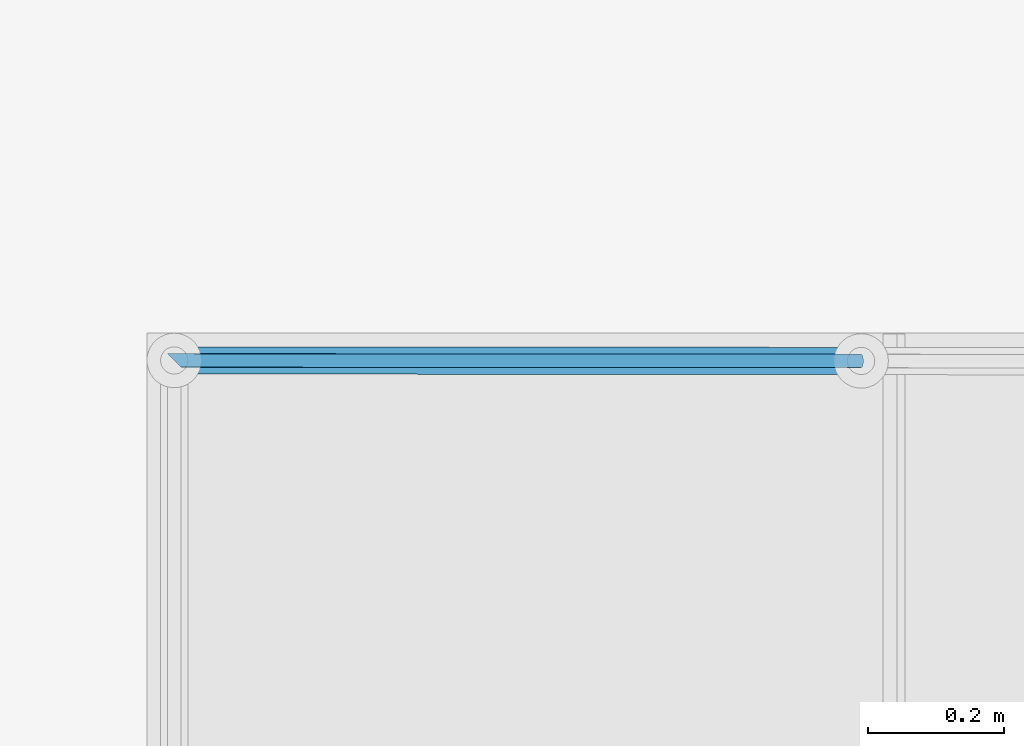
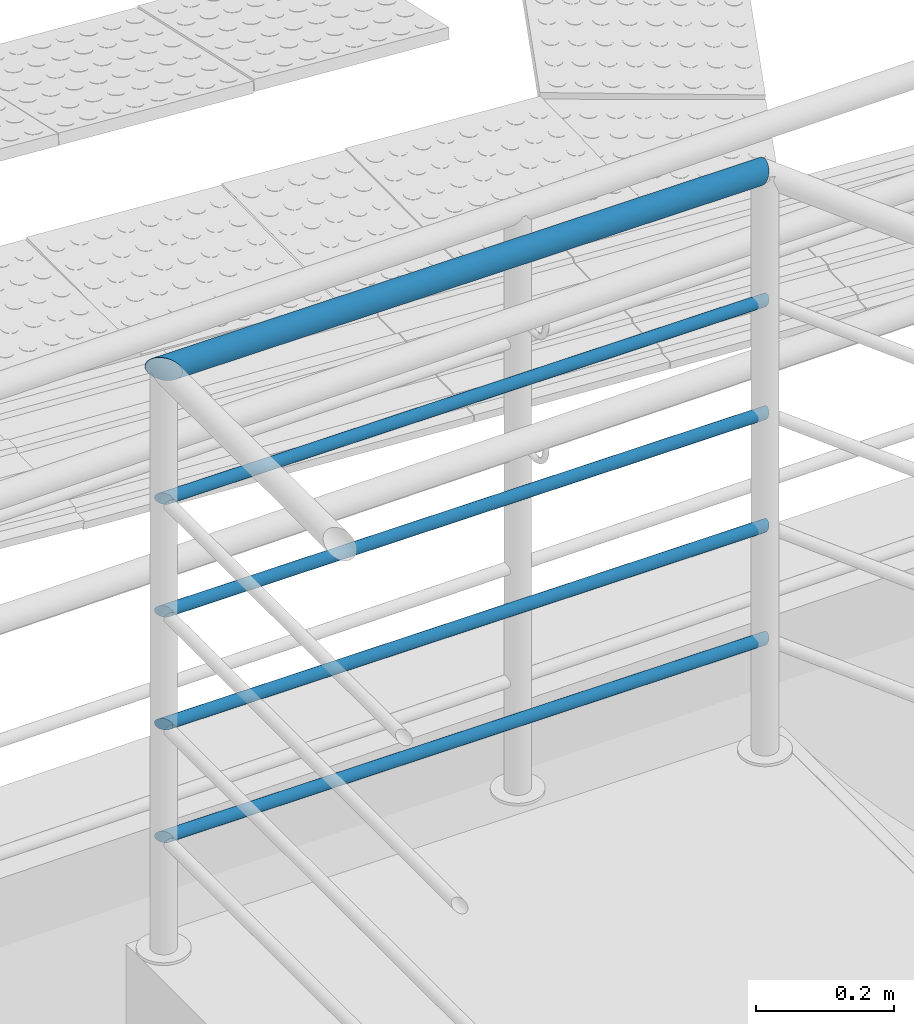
# One storey, part 32 of 237: 6 building element parts, 1 element without a shape of its own.
"""IFC2X3 building model written with IfcOpenShell, lengths in millimetres."""

from ifc_helpers import new_model, entity, si_unit, converted_unit, derived_unit, money_unit, direction, frame, origin_with_axes, place, context, subcontext, project, spatial, faceted_brep, material, type_object, element, aggregate, save


model = new_model("IFC2X3")

# Units and contexts
model_context = context("Model", 3, precision=0.01, world=origin_with_axes(), true_north=direction((0.0, 1.0)))
body_context = subcontext(model_context, "Body", "Model", "MODEL_VIEW")
ifc_project = project(units=[si_unit("LENGTHUNIT", "METRE", prefix="MILLI"), si_unit("AREAUNIT", "SQUARE_METRE"), si_unit("VOLUMEUNIT", "CUBIC_METRE"), converted_unit("PLANEANGLEUNIT", "DEGREE", entity("IfcPlaneAngleMeasure", 0.0174532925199), si_unit("PLANEANGLEUNIT", "RADIAN"), dimensions=[0, 0, 0, 0, 0, 0, 0]), money_unit("USD"), converted_unit("TIMEUNIT", "Year", entity("IfcTimeMeasure", 31556926.0), si_unit("TIMEUNIT", "SECOND"), dimensions=[0, 0, 1, 0, 0, 0, 0]), si_unit("MASSUNIT", "GRAM", prefix="KILO"), si_unit("THERMODYNAMICTEMPERATUREUNIT", "DEGREE_CELSIUS"), si_unit("LUMINOUSINTENSITYUNIT", "LUMEN"), si_unit("ENERGYUNIT", "JOULE", prefix="MEGA"), derived_unit("THERMALCONDUCTANCEUNIT", [(si_unit("POWERUNIT", "WATT"), 1), (si_unit("LENGTHUNIT", "METRE"), -1), (si_unit("THERMODYNAMICTEMPERATUREUNIT", "KELVIN"), -1)]), derived_unit("SPECIFICHEATCAPACITYUNIT", [(si_unit("ENERGYUNIT", "JOULE"), 1), (si_unit("MASSUNIT", "GRAM", prefix="KILO"), -1), (si_unit("THERMODYNAMICTEMPERATUREUNIT", "KELVIN"), -1)]), derived_unit("MASSDENSITYUNIT", [(si_unit("MASSUNIT", "GRAM", prefix="KILO"), 1), (si_unit("VOLUMEUNIT", "CUBIC_METRE"), -1)])], contexts=[model_context])

# Site, building, storey
site_placement = place(None, origin_with_axes())
site = spatial("IfcSite", under=ifc_project, at=site_placement, Name="Local", CompositionType="ELEMENT")
building_placement = place(site_placement, origin_with_axes())
building = spatial("IfcBuilding", under=site, at=building_placement, Name="Construção", CompositionType="ELEMENT")
storey_placement = place(building_placement, origin_with_axes())
storey = spatial("IfcBuildingStorey", under=building, at=storey_placement, Name="Pavimento Térreo", CompositionType="ELEMENT", Elevation=0.0)

# Railing, building element parts
railing_type = type_object("IfcRailingType", Name="Tipo de Guarda-Corpo", PredefinedType="NOTDEFINED")
railing_placement = place(storey_placement, frame((53912.4440926, 33356.4497128, -1263.04952679), z_axis=(0.0, 0.0, 1.0), x_axis=(1.0, 0.0, 0.0)))
railing = element("IfcRailing", 1, at=railing_placement, inside=storey, type_object=railing_type, Name="Guarda-Corpo - 001", PredefinedType="NOTDEFINED")
ifc_material = material(Name="Aço - Inoxidável")
building_element_part_1_placement = place(railing_placement, origin_with_axes())
building_element_part_1 = element("IfcBuildingElementPart", 2, at=building_element_part_1_placement, material=ifc_material, Name="Aço - Inoxidável", context=body_context, shape_type="Brep", body=[
    faceted_brep([(-1808.55190609, 477.731452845, 1935.94133058), (-1807.38792478, 478.033801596, 1939.41429408), (-2790.30384494, 478.746875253, 1939.41429379), (-1809.71510611, 478.036793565, 1932.46836709), (-1810.8421816, 478.940546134, 1929.10092784), (-1811.89888694, 480.415250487, 1925.94133076), (-1812.85311469, 482.416098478, 1923.08557862), (-1813.6758711, 484.882295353, 1920.62044199), (-1814.34215714, 487.738906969, 1918.62082281), (-1814.83172806, 490.899136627, 1917.1474785), (-1815.12970847, 494.266962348, 1916.24517587), (-1815.22704441, 497.740054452, 1915.94133093), (-1815.12077836, 501.212884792, 1916.24517587), (-1814.81413917, 504.579933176, 1917.1474785), (-1814.31644391, 507.738893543, 1918.62082281), (-1813.64281481, 510.59378248, 1920.62044199), (-1812.81371973, 513.057855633, 1923.08557862), (-1811.85435032, 515.056243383, 1925.94133076), (-1810.79385653, 516.528225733, 1929.10092784), (-1809.66446093, 517.429077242, 1932.46836709), (-1808.50047962, 517.731425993, 1935.94133058), (-1807.3372796, 517.426085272, 1939.41429408), (-1806.21020411, 516.522332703, 1942.78173333), (-1805.15349877, 515.047628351, 1945.94133041), (-1804.19927102, 513.04678036, 1948.79708255), (-1803.37651461, 510.580583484, 1951.26221918), (-1802.71022856, 507.723971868, 1953.26183836), (-1802.22065765, 504.56374221, 1954.73518267), (-1801.92267723, 501.195916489, 1955.6374853), (-1801.8253413, 497.722824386, 1955.94133024), (-1801.93160735, 494.249994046, 1955.6374853), (-1802.23824654, 490.882945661, 1954.73518267), (-1802.7359418, 487.723985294, 1953.26183836), (-1803.4095709, 484.869096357, 1951.26221918), (-1804.23866598, 482.405023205, 1948.79708255), (-1805.19803539, 480.406635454, 1945.94133041), (-1806.25852918, 478.934653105, 1942.78173333), (-2791.20614758, 479.64983556, 1942.7817331), (-2790.0, 478.44280885, 1935.94133024), (-2790.30384494, 478.746875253, 1932.46836668), (-2791.20614758, 479.64983556, 1929.10092737), (-2792.67949192, 481.124253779, 1925.94133024), (-2794.67911114, 483.125330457, 1923.08557804), (-2797.14424781, 485.592263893, 1920.62044137), (-2800.0, 488.450097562, 1918.62082216), (-2803.15959713, 491.611997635, 1917.14747782), (-2806.52703645, 494.981891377, 1916.24517518), (-2810.0, 498.457386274, 1915.94133024), (-2813.47296355, 501.932881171, 1916.24517518), (-2816.84040287, 505.302774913, 1917.14747782), (-2820.0, 508.464674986, 1918.62082216), (-2822.85575219, 511.322508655, 1920.62044137), (-2825.32088886, 513.789442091, 1923.08557804), (-2827.32050808, 515.79051877, 1925.94133024), (-2828.79385242, 517.264936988, 1929.10092737), (-2829.69615506, 518.167897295, 1932.46836668), (-2830.0, 518.471963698, 1935.94133024), (-2829.69615506, 518.167897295, 1939.41429379), (-2828.79385242, 517.264936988, 1942.7817331), (-2827.32050808, 515.79051877, 1945.94133024), (-2825.32088886, 513.789442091, 1948.79708243), (-2822.85575219, 511.322508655, 1951.2622191), (-2820.0, 508.464674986, 1953.26183831), (-2816.84040287, 505.302774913, 1954.73518265), (-2813.47296355, 501.932881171, 1955.6374853), (-2810.0, 498.457386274, 1955.94133024), (-2806.52703645, 494.981891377, 1955.6374853), (-2803.15959713, 491.611997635, 1954.73518265), (-2800.0, 488.450097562, 1953.26183831), (-2797.14424781, 485.592263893, 1951.2622191), (-2794.67911114, 483.125330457, 1948.79708243), (-2792.67949192, 481.124253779, 1945.94133024)], [[[0, 1, 2]], [[0, 3, 4, 5, 6, 7, 8, 9, 10, 11, 12, 13, 14, 15, 16, 17, 18, 19, 20, 21, 22, 23, 24, 25, 26, 27, 28, 29, 30, 31, 32, 33, 34, 35, 36, 1]], [[1, 37, 2]], [[0, 2, 38]], [[3, 0, 38]], [[4, 3, 39]], [[5, 4, 40]], [[6, 5, 41]], [[7, 6, 42]], [[8, 7, 43]], [[9, 8, 44]], [[10, 9, 45]], [[11, 10, 46, 47]], [[12, 11, 47, 48]], [[13, 12, 48]], [[14, 13, 49]], [[15, 14, 50]], [[16, 15, 51]], [[17, 16, 52]], [[18, 17, 53]], [[19, 18, 54]], [[20, 19, 55]], [[21, 20, 56]], [[22, 21, 57]], [[23, 22, 58]], [[24, 23, 59]], [[25, 24, 60]], [[26, 25, 61]], [[27, 26, 62]], [[28, 27, 63]], [[29, 28, 64, 65]], [[30, 29, 65, 66]], [[31, 30, 66]], [[32, 31, 67]], [[33, 32, 68]], [[34, 33, 69]], [[35, 34, 70]], [[36, 35, 71]], [[1, 36, 37]], [[38, 2, 37, 71, 70, 69, 68, 67, 66, 65, 64, 63, 62, 61, 60, 59, 58, 57, 56, 55, 54, 53, 52, 51, 50, 49, 48, 47, 46, 45, 44, 43, 42, 41, 40, 39]], [[3, 38, 39]], [[4, 39, 40]], [[5, 40, 41]], [[6, 41, 42]], [[7, 42, 43]], [[8, 43, 44]], [[9, 44, 45]], [[10, 45, 46]], [[13, 48, 49]], [[14, 49, 50]], [[15, 50, 51]], [[16, 51, 52]], [[17, 52, 53]], [[18, 53, 54]], [[19, 54, 55]], [[20, 55, 56]], [[21, 56, 57]], [[22, 57, 58]], [[23, 58, 59]], [[24, 59, 60]], [[25, 60, 61]], [[26, 61, 62]], [[27, 62, 63]], [[28, 63, 64]], [[31, 66, 67]], [[32, 67, 68]], [[33, 68, 69]], [[34, 69, 70]], [[35, 70, 71]], [[36, 71, 37]]]),
])
building_element_part_2_placement = place(railing_placement, origin_with_axes())
building_element_part_2 = element("IfcBuildingElementPart", 3, at=building_element_part_2_placement, material=ifc_material, Name="Aço - Inoxidável", context=body_context, shape_type="Brep", body=[
    faceted_brep([(-1801.83819791, 487.722831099, 1105.94133024), (-1801.25620726, 487.874005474, 1107.67781198), (-2800.15192247, 488.602130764, 1107.67781201), (-1802.41979792, 487.875501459, 1104.20484849), (-1802.98333567, 488.327377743, 1102.52112886), (-1803.51168834, 489.06472992, 1100.94133032), (-1803.98880221, 490.065153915, 1099.51345425), (-1804.40018042, 491.298252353, 1098.28088594), (-1804.73332344, 492.726558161, 1097.28107635), (-1804.9781089, 494.30667299, 1096.54440419), (-1805.12709911, 495.99058585, 1096.09325288), (-1805.17576708, 497.727131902, 1095.94133041), (-1805.12263405, 499.463547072, 1096.09325288), (-1804.96931446, 501.147071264, 1096.54440419), (-1804.72046683, 502.726551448, 1097.28107635), (-1804.38365227, 504.153995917, 1098.28088594), (-1803.96910474, 505.386032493, 1099.51345425), (-1803.48942003, 506.385226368, 1100.94133032), (-1802.95917314, 507.121217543, 1102.52112886), (-1802.39447533, 507.571643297, 1104.20484849), (-1801.81248468, 507.722817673, 1105.94133024), (-1801.23088467, 507.570147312, 1107.67781198), (-1800.66734693, 507.118271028, 1109.36153161), (-1800.13899425, 506.380918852, 1110.94133015), (-1799.66188038, 505.380494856, 1112.36920622), (-1799.25050218, 504.147396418, 1113.60177453), (-1798.91735915, 502.71909061, 1114.60158412), (-1798.6725737, 501.138975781, 1115.33825628), (-1798.52358349, 499.455062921, 1115.7894076), (-1798.47491552, 497.718516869, 1115.94133006), (-1798.52804854, 495.982101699, 1115.7894076), (-1798.68136814, 494.298577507, 1115.33825628), (-1798.93021577, 492.719097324, 1114.60158412), (-1799.26703032, 491.291652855, 1113.60177453), (-1799.68157786, 490.059616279, 1112.36920622), (-1800.16126257, 489.060422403, 1110.94133015), (-1800.69150946, 488.324431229, 1109.36153161), (-2800.60307379, 489.053610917, 1109.36153167), (-2800.0, 488.450097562, 1105.94133024), (-2800.15192247, 488.602130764, 1104.20484846), (-2800.60307379, 489.053610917, 1102.5211288), (-2801.33974596, 489.790820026, 1100.94133024), (-2802.33955557, 490.791358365, 1099.51345414), (-2803.5721239, 492.024825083, 1098.28088581), (-2805.0, 493.453741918, 1097.2810762), (-2806.57979857, 495.034691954, 1096.54440403), (-2808.26351822, 496.719638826, 1096.09325271), (-2810.0, 498.457386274, 1095.94133024), (-2811.73648178, 500.195133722, 1096.09325271), (-2813.42020143, 501.880080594, 1096.54440403), (-2815.0, 503.46103063, 1097.2810762), (-2816.4278761, 504.889947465, 1098.28088581), (-2817.66044443, 506.123414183, 1099.51345414), (-2818.66025404, 507.123952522, 1100.94133024), (-2819.39692621, 507.861161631, 1102.5211288), (-2819.84807753, 508.312641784, 1104.20484846), (-2820.0, 508.464674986, 1105.94133024), (-2819.84807753, 508.312641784, 1107.67781201), (-2819.39692621, 507.861161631, 1109.36153167), (-2818.66025404, 507.123952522, 1110.94133024), (-2817.66044443, 506.123414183, 1112.36920633), (-2816.4278761, 504.889947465, 1113.60177467), (-2815.0, 503.46103063, 1114.60158427), (-2813.42020143, 501.880080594, 1115.33825644), (-2811.73648178, 500.195133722, 1115.78940777), (-2810.0, 498.457386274, 1115.94133024), (-2808.26351822, 496.719638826, 1115.78940777), (-2806.57979857, 495.034691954, 1115.33825644), (-2805.0, 493.453741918, 1114.60158427), (-2803.5721239, 492.024825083, 1113.60177467), (-2802.33955557, 490.791358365, 1112.36920633), (-2801.33974596, 489.790820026, 1110.94133024)], [[[0, 1, 2]], [[0, 3, 4, 5, 6, 7, 8, 9, 10, 11, 12, 13, 14, 15, 16, 17, 18, 19, 20, 21, 22, 23, 24, 25, 26, 27, 28, 29, 30, 31, 32, 33, 34, 35, 36, 1]], [[1, 37, 2]], [[0, 2, 38]], [[3, 0, 38]], [[4, 3, 39]], [[5, 4, 40]], [[6, 5, 41]], [[7, 6, 42]], [[8, 7, 43]], [[9, 8, 44, 45]], [[10, 9, 45, 46]], [[11, 10, 46, 47]], [[12, 11, 47, 48]], [[13, 12, 48, 49]], [[14, 13, 49]], [[15, 14, 50]], [[16, 15, 51]], [[17, 16, 52]], [[18, 17, 53]], [[19, 18, 54]], [[20, 19, 55]], [[21, 20, 56]], [[22, 21, 57]], [[23, 22, 58]], [[24, 23, 59]], [[25, 24, 60]], [[26, 25, 61]], [[27, 26, 62]], [[28, 27, 63, 64]], [[29, 28, 64, 65]], [[30, 29, 65, 66]], [[31, 30, 66, 67]], [[32, 31, 67, 68]], [[33, 32, 68]], [[34, 33, 69]], [[35, 34, 70]], [[36, 35, 71]], [[1, 36, 37]], [[38, 2, 37, 71, 70, 69, 68, 67, 66, 65, 64, 63, 62, 61, 60, 59, 58, 57, 56, 55, 54, 53, 52, 51, 50, 49, 48, 47, 46, 45, 44, 43, 42, 41, 40, 39]], [[3, 38, 39]], [[4, 39, 40]], [[5, 40, 41]], [[6, 41, 42]], [[7, 42, 43]], [[8, 43, 44]], [[14, 49, 50]], [[15, 50, 51]], [[16, 51, 52]], [[17, 52, 53]], [[18, 53, 54]], [[19, 54, 55]], [[20, 55, 56]], [[21, 56, 57]], [[22, 57, 58]], [[23, 58, 59]], [[24, 59, 60]], [[25, 60, 61]], [[26, 61, 62]], [[27, 62, 63]], [[33, 68, 69]], [[34, 69, 70]], [[35, 70, 71]], [[36, 71, 37]]]),
])
building_element_part_3_placement = place(railing_placement, origin_with_axes())
building_element_part_3 = element("IfcBuildingElementPart", 4, at=building_element_part_3_placement, material=ifc_material, Name="Aço - Inoxidável", context=body_context, shape_type="Brep", body=[
    faceted_brep([(-1801.83819791, 487.722831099, 1305.94133024), (-1801.25620726, 487.874005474, 1307.67781198), (-2800.15192247, 488.602130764, 1307.67781201), (-1802.41979792, 487.875501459, 1304.20484849), (-1802.98333567, 488.327377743, 1302.52112886), (-1803.51168834, 489.06472992, 1300.94133032), (-1803.98880221, 490.065153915, 1299.51345425), (-1804.40018042, 491.298252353, 1298.28088594), (-1804.73332344, 492.726558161, 1297.28107635), (-1804.9781089, 494.30667299, 1296.54440419), (-1805.12709911, 495.99058585, 1296.09325288), (-1805.17576708, 497.727131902, 1295.94133041), (-1805.12263405, 499.463547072, 1296.09325288), (-1804.96931446, 501.147071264, 1296.54440419), (-1804.72046683, 502.726551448, 1297.28107635), (-1804.38365227, 504.153995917, 1298.28088594), (-1803.96910474, 505.386032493, 1299.51345425), (-1803.48942003, 506.385226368, 1300.94133032), (-1802.95917314, 507.121217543, 1302.52112886), (-1802.39447533, 507.571643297, 1304.20484849), (-1801.81248468, 507.722817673, 1305.94133024), (-1801.23088467, 507.570147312, 1307.67781198), (-1800.66734693, 507.118271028, 1309.36153161), (-1800.13899425, 506.380918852, 1310.94133015), (-1799.66188038, 505.380494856, 1312.36920622), (-1799.25050218, 504.147396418, 1313.60177453), (-1798.91735915, 502.71909061, 1314.60158412), (-1798.6725737, 501.138975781, 1315.33825628), (-1798.52358349, 499.455062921, 1315.7894076), (-1798.47491552, 497.718516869, 1315.94133006), (-1798.52804854, 495.982101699, 1315.7894076), (-1798.68136814, 494.298577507, 1315.33825628), (-1798.93021577, 492.719097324, 1314.60158412), (-1799.26703032, 491.291652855, 1313.60177453), (-1799.68157786, 490.059616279, 1312.36920622), (-1800.16126257, 489.060422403, 1310.94133015), (-1800.69150946, 488.324431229, 1309.36153161), (-2800.60307379, 489.053610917, 1309.36153167), (-2800.0, 488.450097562, 1305.94133024), (-2800.15192247, 488.602130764, 1304.20484846), (-2800.60307379, 489.053610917, 1302.5211288), (-2801.33974596, 489.790820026, 1300.94133024), (-2802.33955557, 490.791358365, 1299.51345414), (-2803.5721239, 492.024825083, 1298.28088581), (-2805.0, 493.453741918, 1297.2810762), (-2806.57979857, 495.034691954, 1296.54440403), (-2808.26351822, 496.719638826, 1296.09325271), (-2810.0, 498.457386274, 1295.94133024), (-2811.73648178, 500.195133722, 1296.09325271), (-2813.42020143, 501.880080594, 1296.54440403), (-2815.0, 503.46103063, 1297.2810762), (-2816.4278761, 504.889947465, 1298.28088581), (-2817.66044443, 506.123414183, 1299.51345414), (-2818.66025404, 507.123952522, 1300.94133024), (-2819.39692621, 507.861161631, 1302.5211288), (-2819.84807753, 508.312641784, 1304.20484846), (-2820.0, 508.464674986, 1305.94133024), (-2819.84807753, 508.312641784, 1307.67781201), (-2819.39692621, 507.861161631, 1309.36153167), (-2818.66025404, 507.123952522, 1310.94133024), (-2817.66044443, 506.123414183, 1312.36920633), (-2816.4278761, 504.889947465, 1313.60177467), (-2815.0, 503.46103063, 1314.60158427), (-2813.42020143, 501.880080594, 1315.33825644), (-2811.73648178, 500.195133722, 1315.78940777), (-2810.0, 498.457386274, 1315.94133024), (-2808.26351822, 496.719638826, 1315.78940777), (-2806.57979857, 495.034691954, 1315.33825644), (-2805.0, 493.453741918, 1314.60158427), (-2803.5721239, 492.024825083, 1313.60177467), (-2802.33955557, 490.791358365, 1312.36920633), (-2801.33974596, 489.790820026, 1310.94133024)], [[[0, 1, 2]], [[0, 3, 4, 5, 6, 7, 8, 9, 10, 11, 12, 13, 14, 15, 16, 17, 18, 19, 20, 21, 22, 23, 24, 25, 26, 27, 28, 29, 30, 31, 32, 33, 34, 35, 36, 1]], [[1, 37, 2]], [[0, 2, 38]], [[3, 0, 38]], [[4, 3, 39]], [[5, 4, 40]], [[6, 5, 41]], [[7, 6, 42]], [[8, 7, 43]], [[9, 8, 44, 45]], [[10, 9, 45, 46]], [[11, 10, 46, 47]], [[12, 11, 47, 48]], [[13, 12, 48, 49]], [[14, 13, 49]], [[15, 14, 50]], [[16, 15, 51]], [[17, 16, 52]], [[18, 17, 53]], [[19, 18, 54]], [[20, 19, 55]], [[21, 20, 56]], [[22, 21, 57]], [[23, 22, 58]], [[24, 23, 59]], [[25, 24, 60]], [[26, 25, 61]], [[27, 26, 62]], [[28, 27, 63, 64]], [[29, 28, 64, 65]], [[30, 29, 65, 66]], [[31, 30, 66, 67]], [[32, 31, 67, 68]], [[33, 32, 68]], [[34, 33, 69]], [[35, 34, 70]], [[36, 35, 71]], [[1, 36, 37]], [[38, 2, 37, 71, 70, 69, 68, 67, 66, 65, 64, 63, 62, 61, 60, 59, 58, 57, 56, 55, 54, 53, 52, 51, 50, 49, 48, 47, 46, 45, 44, 43, 42, 41, 40, 39]], [[3, 38, 39]], [[4, 39, 40]], [[5, 40, 41]], [[6, 41, 42]], [[7, 42, 43]], [[8, 43, 44]], [[14, 49, 50]], [[15, 50, 51]], [[16, 51, 52]], [[17, 52, 53]], [[18, 53, 54]], [[19, 54, 55]], [[20, 55, 56]], [[21, 56, 57]], [[22, 57, 58]], [[23, 58, 59]], [[24, 59, 60]], [[25, 60, 61]], [[26, 61, 62]], [[27, 62, 63]], [[33, 68, 69]], [[34, 69, 70]], [[35, 70, 71]], [[36, 71, 37]]]),
])
building_element_part_4_placement = place(railing_placement, origin_with_axes())
building_element_part_4 = element("IfcBuildingElementPart", 5, at=building_element_part_4_placement, material=ifc_material, Name="Aço - Inoxidável", context=body_context, shape_type="Brep", body=[
    faceted_brep([(-1801.83819791, 487.722831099, 1305.94133024), (-1801.25620726, 487.874005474, 1307.67781198), (-2800.15192247, 488.602130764, 1307.67781201), (-1802.41979792, 487.875501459, 1304.20484849), (-1802.98333567, 488.327377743, 1302.52112886), (-1803.51168834, 489.06472992, 1300.94133032), (-1803.98880221, 490.065153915, 1299.51345425), (-1804.40018042, 491.298252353, 1298.28088594), (-1804.73332344, 492.726558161, 1297.28107635), (-1804.9781089, 494.30667299, 1296.54440419), (-1805.12709911, 495.99058585, 1296.09325288), (-1805.17576708, 497.727131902, 1295.94133041), (-1805.12263405, 499.463547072, 1296.09325288), (-1804.96931446, 501.147071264, 1296.54440419), (-1804.72046683, 502.726551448, 1297.28107635), (-1804.38365227, 504.153995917, 1298.28088594), (-1803.96910474, 505.386032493, 1299.51345425), (-1803.48942003, 506.385226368, 1300.94133032), (-1802.95917314, 507.121217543, 1302.52112886), (-1802.39447533, 507.571643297, 1304.20484849), (-1801.81248468, 507.722817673, 1305.94133024), (-1801.23088467, 507.570147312, 1307.67781198), (-1800.66734693, 507.118271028, 1309.36153161), (-1800.13899425, 506.380918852, 1310.94133015), (-1799.66188038, 505.380494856, 1312.36920622), (-1799.25050218, 504.147396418, 1313.60177453), (-1798.91735915, 502.71909061, 1314.60158412), (-1798.6725737, 501.138975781, 1315.33825628), (-1798.52358349, 499.455062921, 1315.7894076), (-1798.47491552, 497.718516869, 1315.94133006), (-1798.52804854, 495.982101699, 1315.7894076), (-1798.68136814, 494.298577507, 1315.33825628), (-1798.93021577, 492.719097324, 1314.60158412), (-1799.26703032, 491.291652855, 1313.60177453), (-1799.68157786, 490.059616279, 1312.36920622), (-1800.16126257, 489.060422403, 1310.94133015), (-1800.69150946, 488.324431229, 1309.36153161), (-2800.60307379, 489.053610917, 1309.36153167), (-2800.0, 488.450097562, 1305.94133024), (-2800.15192247, 488.602130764, 1304.20484846), (-2800.60307379, 489.053610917, 1302.5211288), (-2801.33974596, 489.790820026, 1300.94133024), (-2802.33955557, 490.791358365, 1299.51345414), (-2803.5721239, 492.024825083, 1298.28088581), (-2805.0, 493.453741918, 1297.2810762), (-2806.57979857, 495.034691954, 1296.54440403), (-2808.26351822, 496.719638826, 1296.09325271), (-2810.0, 498.457386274, 1295.94133024), (-2811.73648178, 500.195133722, 1296.09325271), (-2813.42020143, 501.880080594, 1296.54440403), (-2815.0, 503.46103063, 1297.2810762), (-2816.4278761, 504.889947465, 1298.28088581), (-2817.66044443, 506.123414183, 1299.51345414), (-2818.66025404, 507.123952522, 1300.94133024), (-2819.39692621, 507.861161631, 1302.5211288), (-2819.84807753, 508.312641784, 1304.20484846), (-2820.0, 508.464674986, 1305.94133024), (-2819.84807753, 508.312641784, 1307.67781201), (-2819.39692621, 507.861161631, 1309.36153167), (-2818.66025404, 507.123952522, 1310.94133024), (-2817.66044443, 506.123414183, 1312.36920633), (-2816.4278761, 504.889947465, 1313.60177467), (-2815.0, 503.46103063, 1314.60158427), (-2813.42020143, 501.880080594, 1315.33825644), (-2811.73648178, 500.195133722, 1315.78940777), (-2810.0, 498.457386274, 1315.94133024), (-2808.26351822, 496.719638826, 1315.78940777), (-2806.57979857, 495.034691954, 1315.33825644), (-2805.0, 493.453741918, 1314.60158427), (-2803.5721239, 492.024825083, 1313.60177467), (-2802.33955557, 490.791358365, 1312.36920633), (-2801.33974596, 489.790820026, 1310.94133024)], [[[0, 1, 2]], [[0, 3, 4, 5, 6, 7, 8, 9, 10, 11, 12, 13, 14, 15, 16, 17, 18, 19, 20, 21, 22, 23, 24, 25, 26, 27, 28, 29, 30, 31, 32, 33, 34, 35, 36, 1]], [[1, 37, 2]], [[0, 2, 38]], [[3, 0, 38]], [[4, 3, 39]], [[5, 4, 40]], [[6, 5, 41]], [[7, 6, 42]], [[8, 7, 43]], [[9, 8, 44, 45]], [[10, 9, 45, 46]], [[11, 10, 46, 47]], [[12, 11, 47, 48]], [[13, 12, 48, 49]], [[14, 13, 49]], [[15, 14, 50]], [[16, 15, 51]], [[17, 16, 52]], [[18, 17, 53]], [[19, 18, 54]], [[20, 19, 55]], [[21, 20, 56]], [[22, 21, 57]], [[23, 22, 58]], [[24, 23, 59]], [[25, 24, 60]], [[26, 25, 61]], [[27, 26, 62]], [[28, 27, 63, 64]], [[29, 28, 64, 65]], [[30, 29, 65, 66]], [[31, 30, 66, 67]], [[32, 31, 67, 68]], [[33, 32, 68]], [[34, 33, 69]], [[35, 34, 70]], [[36, 35, 71]], [[1, 36, 37]], [[38, 2, 37, 71, 70, 69, 68, 67, 66, 65, 64, 63, 62, 61, 60, 59, 58, 57, 56, 55, 54, 53, 52, 51, 50, 49, 48, 47, 46, 45, 44, 43, 42, 41, 40, 39]], [[3, 38, 39]], [[4, 39, 40]], [[5, 40, 41]], [[6, 41, 42]], [[7, 42, 43]], [[8, 43, 44]], [[14, 49, 50]], [[15, 50, 51]], [[16, 51, 52]], [[17, 52, 53]], [[18, 53, 54]], [[19, 54, 55]], [[20, 55, 56]], [[21, 56, 57]], [[22, 57, 58]], [[23, 58, 59]], [[24, 59, 60]], [[25, 60, 61]], [[26, 61, 62]], [[27, 62, 63]], [[33, 68, 69]], [[34, 69, 70]], [[35, 70, 71]], [[36, 71, 37]]]),
])
building_element_part_5_placement = place(railing_placement, origin_with_axes())
building_element_part_5 = element("IfcBuildingElementPart", 6, at=building_element_part_5_placement, material=ifc_material, Name="Aço - Inoxidável", context=body_context, shape_type="Brep", body=[
    faceted_brep([(-1801.83819791, 487.722831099, 1505.94133024), (-1801.25620726, 487.874005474, 1507.67781198), (-2800.15192247, 488.602130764, 1507.67781201), (-1802.41979792, 487.875501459, 1504.20484849), (-1802.98333567, 488.327377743, 1502.52112886), (-1803.51168834, 489.06472992, 1500.94133032), (-1803.98880221, 490.065153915, 1499.51345425), (-1804.40018042, 491.298252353, 1498.28088594), (-1804.73332344, 492.726558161, 1497.28107635), (-1804.9781089, 494.30667299, 1496.54440419), (-1805.12709911, 495.99058585, 1496.09325288), (-1805.17576708, 497.727131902, 1495.94133041), (-1805.12263405, 499.463547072, 1496.09325288), (-1804.96931446, 501.147071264, 1496.54440419), (-1804.72046683, 502.726551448, 1497.28107635), (-1804.38365227, 504.153995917, 1498.28088594), (-1803.96910474, 505.386032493, 1499.51345425), (-1803.48942003, 506.385226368, 1500.94133032), (-1802.95917314, 507.121217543, 1502.52112886), (-1802.39447533, 507.571643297, 1504.20484849), (-1801.81248468, 507.722817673, 1505.94133024), (-1801.23088467, 507.570147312, 1507.67781198), (-1800.66734693, 507.118271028, 1509.36153161), (-1800.13899425, 506.380918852, 1510.94133015), (-1799.66188038, 505.380494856, 1512.36920622), (-1799.25050218, 504.147396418, 1513.60177453), (-1798.91735915, 502.71909061, 1514.60158412), (-1798.6725737, 501.138975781, 1515.33825628), (-1798.52358349, 499.455062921, 1515.7894076), (-1798.47491552, 497.718516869, 1515.94133006), (-1798.52804854, 495.982101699, 1515.7894076), (-1798.68136814, 494.298577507, 1515.33825628), (-1798.93021577, 492.719097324, 1514.60158412), (-1799.26703032, 491.291652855, 1513.60177453), (-1799.68157786, 490.059616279, 1512.36920622), (-1800.16126257, 489.060422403, 1510.94133015), (-1800.69150946, 488.324431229, 1509.36153161), (-2800.60307379, 489.053610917, 1509.36153167), (-2800.0, 488.450097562, 1505.94133024), (-2800.15192247, 488.602130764, 1504.20484846), (-2800.60307379, 489.053610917, 1502.5211288), (-2801.33974596, 489.790820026, 1500.94133024), (-2802.33955557, 490.791358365, 1499.51345414), (-2803.5721239, 492.024825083, 1498.28088581), (-2805.0, 493.453741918, 1497.2810762), (-2806.57979857, 495.034691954, 1496.54440403), (-2808.26351822, 496.719638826, 1496.09325271), (-2810.0, 498.457386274, 1495.94133024), (-2811.73648178, 500.195133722, 1496.09325271), (-2813.42020143, 501.880080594, 1496.54440403), (-2815.0, 503.46103063, 1497.2810762), (-2816.4278761, 504.889947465, 1498.28088581), (-2817.66044443, 506.123414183, 1499.51345414), (-2818.66025404, 507.123952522, 1500.94133024), (-2819.39692621, 507.861161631, 1502.5211288), (-2819.84807753, 508.312641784, 1504.20484846), (-2820.0, 508.464674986, 1505.94133024), (-2819.84807753, 508.312641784, 1507.67781201), (-2819.39692621, 507.861161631, 1509.36153167), (-2818.66025404, 507.123952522, 1510.94133024), (-2817.66044443, 506.123414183, 1512.36920633), (-2816.4278761, 504.889947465, 1513.60177467), (-2815.0, 503.46103063, 1514.60158427), (-2813.42020143, 501.880080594, 1515.33825644), (-2811.73648178, 500.195133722, 1515.78940777), (-2810.0, 498.457386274, 1515.94133024), (-2808.26351822, 496.719638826, 1515.78940777), (-2806.57979857, 495.034691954, 1515.33825644), (-2805.0, 493.453741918, 1514.60158427), (-2803.5721239, 492.024825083, 1513.60177467), (-2802.33955557, 490.791358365, 1512.36920633), (-2801.33974596, 489.790820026, 1510.94133024)], [[[0, 1, 2]], [[0, 3, 4, 5, 6, 7, 8, 9, 10, 11, 12, 13, 14, 15, 16, 17, 18, 19, 20, 21, 22, 23, 24, 25, 26, 27, 28, 29, 30, 31, 32, 33, 34, 35, 36, 1]], [[1, 37, 2]], [[0, 2, 38]], [[3, 0, 38]], [[4, 3, 39]], [[5, 4, 40]], [[6, 5, 41]], [[7, 6, 42]], [[8, 7, 43]], [[9, 8, 44, 45]], [[10, 9, 45, 46]], [[11, 10, 46, 47]], [[12, 11, 47, 48]], [[13, 12, 48, 49]], [[14, 13, 49]], [[15, 14, 50]], [[16, 15, 51]], [[17, 16, 52]], [[18, 17, 53]], [[19, 18, 54]], [[20, 19, 55]], [[21, 20, 56]], [[22, 21, 57]], [[23, 22, 58]], [[24, 23, 59]], [[25, 24, 60]], [[26, 25, 61]], [[27, 26, 62]], [[28, 27, 63, 64]], [[29, 28, 64, 65]], [[30, 29, 65, 66]], [[31, 30, 66, 67]], [[32, 31, 67, 68]], [[33, 32, 68]], [[34, 33, 69]], [[35, 34, 70]], [[36, 35, 71]], [[1, 36, 37]], [[38, 2, 37, 71, 70, 69, 68, 67, 66, 65, 64, 63, 62, 61, 60, 59, 58, 57, 56, 55, 54, 53, 52, 51, 50, 49, 48, 47, 46, 45, 44, 43, 42, 41, 40, 39]], [[3, 38, 39]], [[4, 39, 40]], [[5, 40, 41]], [[6, 41, 42]], [[7, 42, 43]], [[8, 43, 44]], [[14, 49, 50]], [[15, 50, 51]], [[16, 51, 52]], [[17, 52, 53]], [[18, 53, 54]], [[19, 54, 55]], [[20, 55, 56]], [[21, 56, 57]], [[22, 57, 58]], [[23, 58, 59]], [[24, 59, 60]], [[25, 60, 61]], [[26, 61, 62]], [[27, 62, 63]], [[33, 68, 69]], [[34, 69, 70]], [[35, 70, 71]], [[36, 71, 37]]]),
])
building_element_part_6_placement = place(railing_placement, origin_with_axes())
building_element_part_6 = element("IfcBuildingElementPart", 7, at=building_element_part_6_placement, material=ifc_material, Name="Aço - Inoxidável", context=body_context, shape_type="Brep", body=[
    faceted_brep([(-1801.83819791, 487.722831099, 1705.94133024), (-1801.25620726, 487.874005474, 1707.67781198), (-2800.15192247, 488.602130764, 1707.67781201), (-1802.41979792, 487.875501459, 1704.20484849), (-1802.98333567, 488.327377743, 1702.52112886), (-1803.51168834, 489.06472992, 1700.94133032), (-1803.98880221, 490.065153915, 1699.51345425), (-1804.40018042, 491.298252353, 1698.28088594), (-1804.73332344, 492.726558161, 1697.28107635), (-1804.9781089, 494.30667299, 1696.54440419), (-1805.12709911, 495.99058585, 1696.09325288), (-1805.17576708, 497.727131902, 1695.94133041), (-1805.12263405, 499.463547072, 1696.09325288), (-1804.96931446, 501.147071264, 1696.54440419), (-1804.72046683, 502.726551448, 1697.28107635), (-1804.38365227, 504.153995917, 1698.28088594), (-1803.96910474, 505.386032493, 1699.51345425), (-1803.48942003, 506.385226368, 1700.94133032), (-1802.95917314, 507.121217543, 1702.52112886), (-1802.39447533, 507.571643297, 1704.20484849), (-1801.81248468, 507.722817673, 1705.94133024), (-1801.23088467, 507.570147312, 1707.67781198), (-1800.66734693, 507.118271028, 1709.36153161), (-1800.13899425, 506.380918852, 1710.94133015), (-1799.66188038, 505.380494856, 1712.36920622), (-1799.25050218, 504.147396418, 1713.60177453), (-1798.91735915, 502.71909061, 1714.60158412), (-1798.6725737, 501.138975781, 1715.33825628), (-1798.52358349, 499.455062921, 1715.7894076), (-1798.47491552, 497.718516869, 1715.94133006), (-1798.52804854, 495.982101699, 1715.7894076), (-1798.68136814, 494.298577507, 1715.33825628), (-1798.93021577, 492.719097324, 1714.60158412), (-1799.26703032, 491.291652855, 1713.60177453), (-1799.68157786, 490.059616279, 1712.36920622), (-1800.16126257, 489.060422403, 1710.94133015), (-1800.69150946, 488.324431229, 1709.36153161), (-2800.60307379, 489.053610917, 1709.36153167), (-2800.0, 488.450097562, 1705.94133024), (-2800.15192247, 488.602130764, 1704.20484846), (-2800.60307379, 489.053610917, 1702.5211288), (-2801.33974596, 489.790820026, 1700.94133024), (-2802.33955557, 490.791358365, 1699.51345414), (-2803.5721239, 492.024825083, 1698.28088581), (-2805.0, 493.453741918, 1697.2810762), (-2806.57979857, 495.034691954, 1696.54440403), (-2808.26351822, 496.719638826, 1696.09325271), (-2810.0, 498.457386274, 1695.94133024), (-2811.73648178, 500.195133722, 1696.09325271), (-2813.42020143, 501.880080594, 1696.54440403), (-2815.0, 503.46103063, 1697.2810762), (-2816.4278761, 504.889947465, 1698.28088581), (-2817.66044443, 506.123414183, 1699.51345414), (-2818.66025404, 507.123952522, 1700.94133024), (-2819.39692621, 507.861161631, 1702.5211288), (-2819.84807753, 508.312641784, 1704.20484846), (-2820.0, 508.464674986, 1705.94133024), (-2819.84807753, 508.312641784, 1707.67781201), (-2819.39692621, 507.861161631, 1709.36153167), (-2818.66025404, 507.123952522, 1710.94133024), (-2817.66044443, 506.123414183, 1712.36920633), (-2816.4278761, 504.889947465, 1713.60177467), (-2815.0, 503.46103063, 1714.60158427), (-2813.42020143, 501.880080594, 1715.33825644), (-2811.73648178, 500.195133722, 1715.78940777), (-2810.0, 498.457386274, 1715.94133024), (-2808.26351822, 496.719638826, 1715.78940777), (-2806.57979857, 495.034691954, 1715.33825644), (-2805.0, 493.453741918, 1714.60158427), (-2803.5721239, 492.024825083, 1713.60177467), (-2802.33955557, 490.791358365, 1712.36920633), (-2801.33974596, 489.790820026, 1710.94133024)], [[[0, 1, 2]], [[0, 3, 4, 5, 6, 7, 8, 9, 10, 11, 12, 13, 14, 15, 16, 17, 18, 19, 20, 21, 22, 23, 24, 25, 26, 27, 28, 29, 30, 31, 32, 33, 34, 35, 36, 1]], [[1, 37, 2]], [[0, 2, 38]], [[3, 0, 38]], [[4, 3, 39]], [[5, 4, 40]], [[6, 5, 41]], [[7, 6, 42]], [[8, 7, 43]], [[9, 8, 44, 45]], [[10, 9, 45, 46]], [[11, 10, 46, 47]], [[12, 11, 47, 48]], [[13, 12, 48, 49]], [[14, 13, 49]], [[15, 14, 50]], [[16, 15, 51]], [[17, 16, 52]], [[18, 17, 53]], [[19, 18, 54]], [[20, 19, 55]], [[21, 20, 56]], [[22, 21, 57]], [[23, 22, 58]], [[24, 23, 59]], [[25, 24, 60]], [[26, 25, 61]], [[27, 26, 62]], [[28, 27, 63, 64]], [[29, 28, 64, 65]], [[30, 29, 65, 66]], [[31, 30, 66, 67]], [[32, 31, 67, 68]], [[33, 32, 68]], [[34, 33, 69]], [[35, 34, 70]], [[36, 35, 71]], [[1, 36, 37]], [[38, 2, 37, 71, 70, 69, 68, 67, 66, 65, 64, 63, 62, 61, 60, 59, 58, 57, 56, 55, 54, 53, 52, 51, 50, 49, 48, 47, 46, 45, 44, 43, 42, 41, 40, 39]], [[3, 38, 39]], [[4, 39, 40]], [[5, 40, 41]], [[6, 41, 42]], [[7, 42, 43]], [[8, 43, 44]], [[14, 49, 50]], [[15, 50, 51]], [[16, 51, 52]], [[17, 52, 53]], [[18, 53, 54]], [[19, 54, 55]], [[20, 55, 56]], [[21, 56, 57]], [[22, 57, 58]], [[23, 58, 59]], [[24, 59, 60]], [[25, 60, 61]], [[26, 61, 62]], [[27, 62, 63]], [[33, 68, 69]], [[34, 69, 70]], [[35, 70, 71]], [[36, 71, 37]]]),
])
aggregate(railing, [building_element_part_1, building_element_part_2, building_element_part_3, building_element_part_4, building_element_part_5, building_element_part_6])

save(model, "model.ifc")
